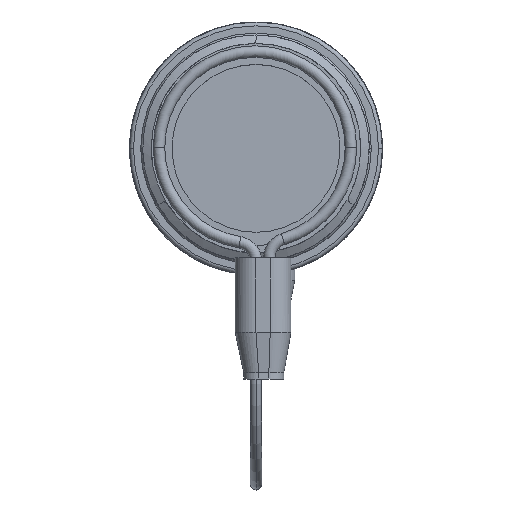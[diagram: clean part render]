
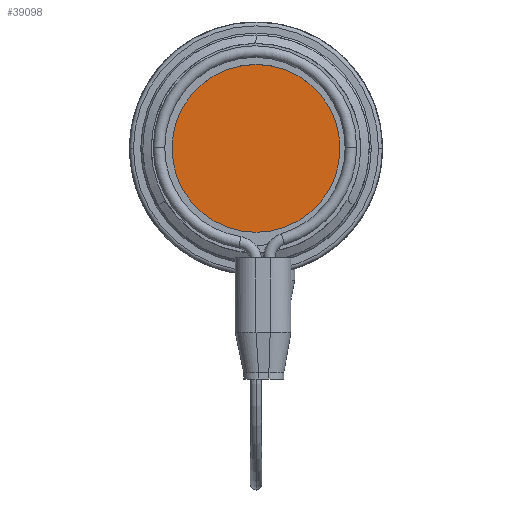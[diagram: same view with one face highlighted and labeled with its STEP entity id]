
A CAD part, top view. The second image highlights one B-rep face of the part: STEP entity #39098.
In plain terms, the highlighted planar face has unit normal (0, 0, 1) as drawn and (0, 0, -1) by its records, which use the part's own axes.
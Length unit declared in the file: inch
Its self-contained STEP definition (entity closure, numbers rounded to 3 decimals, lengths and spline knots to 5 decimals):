
#2292 = VERTEX_POINT ( 'NONE', #14998 ) ;
#6732 = EDGE_CURVE ( 'NONE', #29824, #2292, #32091, .T. ) ;
#8971 = AXIS2_PLACEMENT_3D ( 'NONE', #48018, #12528, #28293 ) ;
#10638 = CARTESIAN_POINT ( 'NONE',  ( -0.4375, 0., -0.38 ) ) ;
#10687 = DIRECTION ( 'NONE',  ( -1., 0., 0. ) ) ;
#11714 = DIRECTION ( 'NONE',  ( 0., 0., -1. ) ) ;
#11987 = EDGE_LOOP ( 'NONE', ( #24218, #21133 ) ) ;
#12528 = DIRECTION ( 'NONE',  ( 0., 0., -1. ) ) ;
#14998 = CARTESIAN_POINT ( 'NONE',  ( 0.4375, 0., -0.38 ) ) ;
#18600 = EDGE_CURVE ( 'NONE', #2292, #29824, #27049, .T. ) ;
#20445 = AXIS2_PLACEMENT_3D ( 'NONE', #46676, #11714, #10687 ) ;
#21133 = ORIENTED_EDGE ( 'NONE', *, *, #18600, .T. ) ;
#24218 = ORIENTED_EDGE ( 'NONE', *, *, #6732, .T. ) ;
#26429 = CARTESIAN_POINT ( 'NONE',  ( 0., 0., -0.38 ) ) ;
#27049 = CIRCLE ( 'NONE', #31217, 0.4375 ) ;
#28293 = DIRECTION ( 'NONE',  ( -1., 0., 0. ) ) ;
#29824 = VERTEX_POINT ( 'NONE', #10638 ) ;
#30866 = PLANE ( 'NONE',  #20445 ) ;
#31217 = AXIS2_PLACEMENT_3D ( 'NONE', #26429, #33472, #37617 ) ;
#32091 = CIRCLE ( 'NONE', #8971, 0.4375 ) ;
#33472 = DIRECTION ( 'NONE',  ( 0., 0., -1. ) ) ;
#37617 = DIRECTION ( 'NONE',  ( -1., 0., 0. ) ) ;
#39098 = ADVANCED_FACE ( 'NONE', ( #46169 ), #30866, .T. ) ;
#46169 = FACE_OUTER_BOUND ( 'NONE', #11987, .T. ) ;
#46676 = CARTESIAN_POINT ( 'NONE',  ( 0., 0.4375, -0.38 ) ) ;
#48018 = CARTESIAN_POINT ( 'NONE',  ( 0., 0., -0.38 ) ) ;
